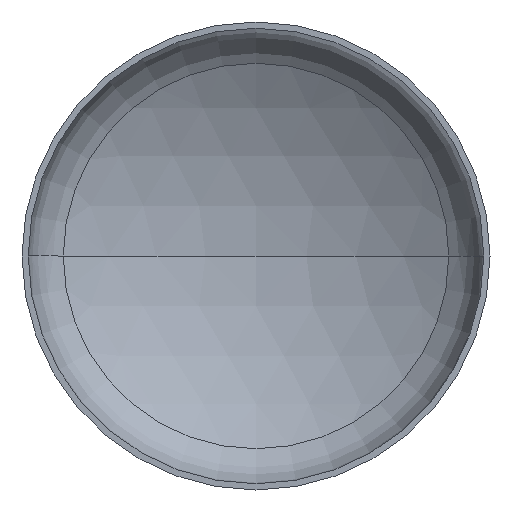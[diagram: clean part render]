
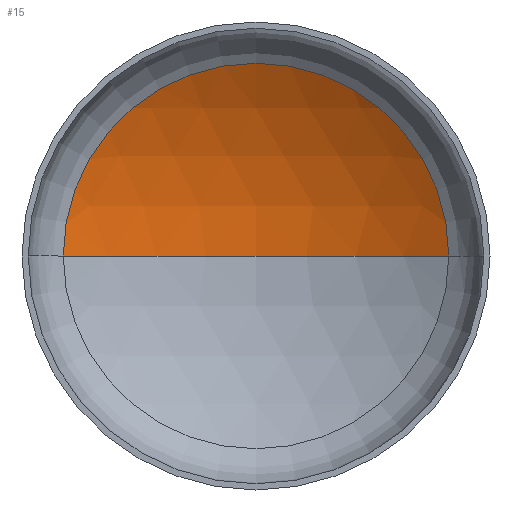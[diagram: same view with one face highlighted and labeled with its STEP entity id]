
A CAD part, front view. The second image highlights one B-rep face of the part: STEP entity #15.
In plain terms, the highlighted spherical face has radius 4800 mm.
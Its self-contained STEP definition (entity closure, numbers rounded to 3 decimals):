
#1 = DIRECTION ( 'NONE',  ( 0., 0., 1. ) ) ;
#3 = CARTESIAN_POINT ( 'NONE',  ( 0., -3201.987, 0. ) ) ;
#15 = ADVANCED_FACE ( 'NONE', ( #261 ), #320, .F. ) ;
#58 = ORIENTED_EDGE ( 'NONE', *, *, #157, .T. ) ;
#63 = VERTEX_POINT ( 'NONE', #242 ) ;
#77 = AXIS2_PLACEMENT_3D ( 'NONE', #3, #1, #397 ) ;
#86 = ORIENTED_EDGE ( 'NONE', *, *, #162, .T. ) ;
#88 = AXIS2_PLACEMENT_3D ( 'NONE', #178, #173, #171 ) ;
#90 = CARTESIAN_POINT ( 'NONE',  ( 2471.226, 912.991, 0. ) ) ;
#92 = AXIS2_PLACEMENT_3D ( 'NONE', #210, #211, #202 ) ;
#123 = CARTESIAN_POINT ( 'NONE',  ( -2471.226, 912.991, 0. ) ) ;
#125 = AXIS2_PLACEMENT_3D ( 'NONE', #267, #283, #279 ) ;
#127 = CIRCLE ( 'NONE', #77, 4800. ) ;
#139 = CIRCLE ( 'NONE', #92, 2471.226 ) ;
#157 = EDGE_CURVE ( 'NONE', #176, #229, #139, .T. ) ;
#160 = ORIENTED_EDGE ( 'NONE', *, *, #169, .F. ) ;
#162 = EDGE_CURVE ( 'NONE', #63, #176, #411, .T. ) ;
#169 = EDGE_CURVE ( 'NONE', #63, #229, #127, .T. ) ;
#171 = DIRECTION ( 'NONE',  ( -1., 0., 0. ) ) ;
#173 = DIRECTION ( 'NONE',  ( 0., 0., -1. ) ) ;
#176 = VERTEX_POINT ( 'NONE', #90 ) ;
#178 = CARTESIAN_POINT ( 'NONE',  ( 0., -3201.987, 0. ) ) ;
#201 = EDGE_LOOP ( 'NONE', ( #160, #86, #58 ) ) ;
#202 = DIRECTION ( 'NONE',  ( 1., 0., 0. ) ) ;
#210 = CARTESIAN_POINT ( 'NONE',  ( 0., 912.991, 0. ) ) ;
#211 = DIRECTION ( 'NONE',  ( 0., -1., 0. ) ) ;
#229 = VERTEX_POINT ( 'NONE', #123 ) ;
#242 = CARTESIAN_POINT ( 'NONE',  ( 0., 1598.013, 0. ) ) ;
#261 = FACE_OUTER_BOUND ( 'NONE', #201, .T. ) ;
#267 = CARTESIAN_POINT ( 'NONE',  ( 0., -3201.987, 0. ) ) ;
#279 = DIRECTION ( 'NONE',  ( -1., 0., 0. ) ) ;
#283 = DIRECTION ( 'NONE',  ( 0., 0., -1. ) ) ;
#320 = SPHERICAL_SURFACE ( 'NONE', #125, 4800. ) ;
#397 = DIRECTION ( 'NONE',  ( 1., 0., 0. ) ) ;
#411 = CIRCLE ( 'NONE', #88, 4800. ) ;
